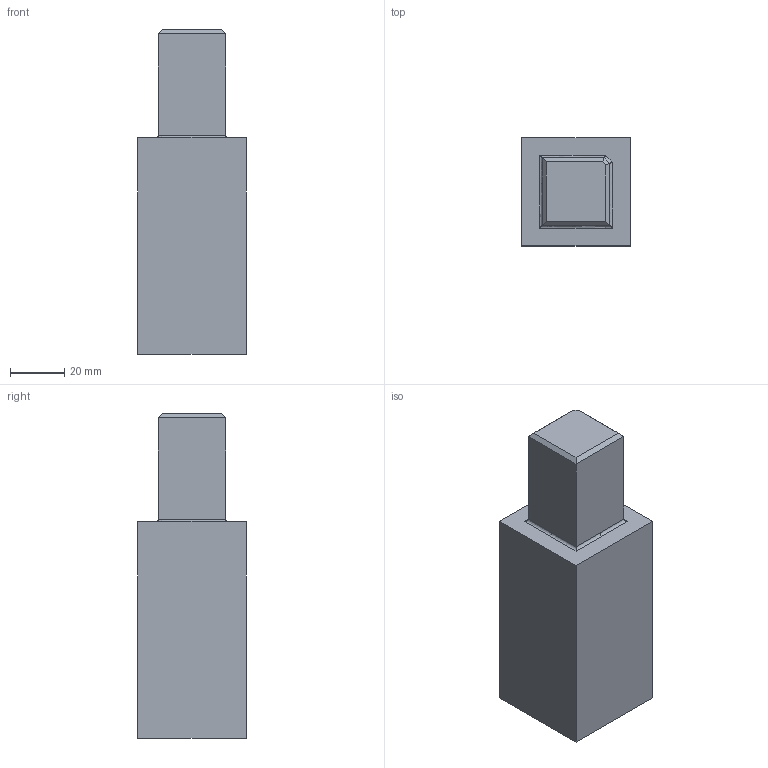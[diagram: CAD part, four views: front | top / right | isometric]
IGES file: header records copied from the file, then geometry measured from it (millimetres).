
Start section: 3D InterOp IGES (v. 2020 1.0.1), Spatial Corp. Copyright (c) 1999-2017.
Global section: file name: V92571_25_4040_80.igs; native system: Spatial Corp.; preprocessor: 3D InterOp GENERIC/IGES 3.0; author: Noname; organization: Noname; date: 20201116.103805; units: metre
Bounding box: 40 x 40 x 120 mm (x, y, z)
Surface area: 19820.9 mm2 (no closed solid volume)
Topology: 0 solids, 0 shells, 22 faces, 94 edges, 94 vertices
Faces by surface type: extrusion 17, revolution 5
